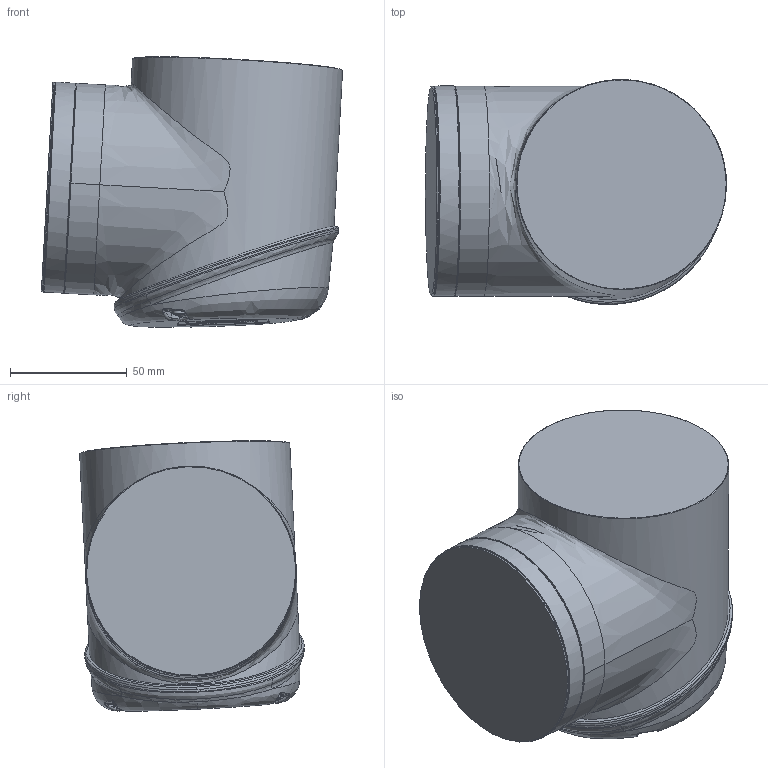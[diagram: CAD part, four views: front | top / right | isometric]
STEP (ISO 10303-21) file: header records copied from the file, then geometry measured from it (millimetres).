
FILE_DESCRIPTION(/* description */ ('STEP AP242 Edition 2','CAx-IF Rec.Pracs.---Representation and Presentation of Product Manufacturing Information (PMI)---4.0---2014-10-13','CAx-IF Rec.Pracs.---3D Tessellated Geometry---0.4---2014-09-14','2;1','CAx-IF Rec.Pracs.---User Defined Attributes---1.5---2016-08-15'),/* implementation_level */ '2;1');
FILE_NAME(/* name */ 'Assembly 1 - Link_4__Imported1',/* time_stamp */ '2026-08-25T13:00:47Z',/* author */ (''),/* organization */ (''),/* preprocessor_version */ 'ST-DEVELOPER v20',/* originating_system */ 'ONSHAPE BY PTC INC, 1.219',/* authorisation */ ' ');
FILE_SCHEMA (('AP242_MANAGED_MODEL_BASED_3D_ENGINEERING_MIM_LF { 1 0 10303 442 3 1 4 }'));
Length unit declared in the file: metre
Products named in the file (1): Link_4__Imported1
Bounding box: 128.83 x 96.13 x 115.72 mm (x, y, z)
Volume: 951181.5 mm3; surface area: 57042.7 mm2
Topology: 1 solids, 1 shells, 284 faces, 751 edges, 475 vertices
Faces by surface type: bspline 101, cylinder 94, torus 37, cone 28, plane 19, sphere 5
Full cylindrical faces by diameter (mm): 5.6 x3, 88.195 x2, 90 x3
Entity records: 20938 total; most frequent: CARTESIAN_POINT 15006, ORIENTED_EDGE 1432, EDGE_CURVE 716, B_SPLINE_CURVE_WITH_KNOTS 601, DIRECTION 524, VERTEX_POINT 467, FACE_BOUND 317, EDGE_LOOP 314
